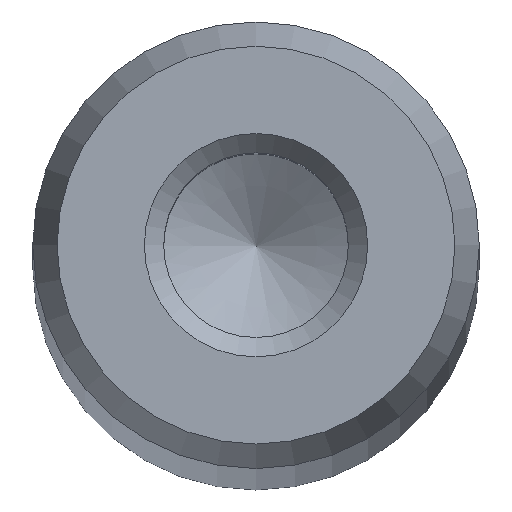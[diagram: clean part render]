
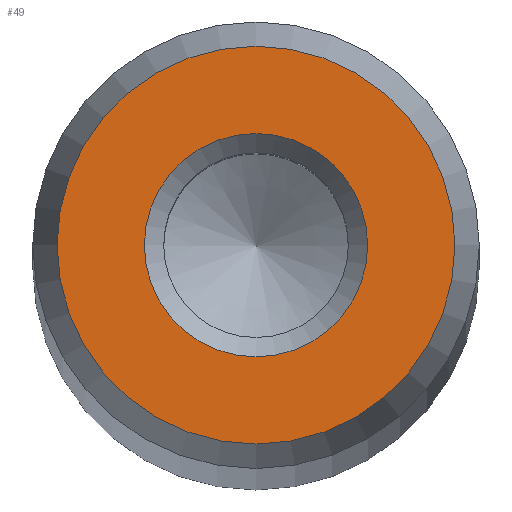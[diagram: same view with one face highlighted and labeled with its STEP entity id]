
A CAD part, top view. The second image highlights one B-rep face of the part: STEP entity #49.
In plain terms, the highlighted planar face has unit normal (0, 0, 1).
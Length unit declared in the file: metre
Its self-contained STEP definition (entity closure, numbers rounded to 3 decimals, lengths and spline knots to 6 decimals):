
#49 = ADVANCED_FACE( '', ( #104, #105 ), #106, .T. );
#104 = FACE_OUTER_BOUND( '', #163, .T. );
#105 = FACE_BOUND( '', #164, .T. );
#106 = PLANE( '', #165 );
#163 = EDGE_LOOP( '', ( #228 ) );
#164 = EDGE_LOOP( '', ( #229 ) );
#165 = AXIS2_PLACEMENT_3D( '', #230, #231, #232 );
#228 = ORIENTED_EDGE( '', *, *, #283, .T. );
#229 = ORIENTED_EDGE( '', *, *, #286, .T. );
#230 = CARTESIAN_POINT( '', ( 0., 0., 0.277 ) );
#231 = DIRECTION( '', ( 0., 0., 1. ) );
#232 = DIRECTION( '', ( 1., 0., 0. ) );
#283 = EDGE_CURVE( '', #319, #319, #320, .T. );
#286 = EDGE_CURVE( '', #323, #323, #324, .T. );
#319 = VERTEX_POINT( '', #356 );
#320 = CIRCLE( '', #357, 0.004454 );
#323 = VERTEX_POINT( '', #360 );
#324 = CIRCLE( '', #361, 0.0025 );
#356 = CARTESIAN_POINT( '', ( 0.004454, 0., 0.277 ) );
#357 = AXIS2_PLACEMENT_3D( '', #397, #398, #399 );
#360 = CARTESIAN_POINT( '', ( 0.0025, 0., 0.277 ) );
#361 = AXIS2_PLACEMENT_3D( '', #400, #401, #402 );
#397 = CARTESIAN_POINT( '', ( 0., 0., 0.277 ) );
#398 = DIRECTION( '', ( 0., 0., 1. ) );
#399 = DIRECTION( '', ( 1., 0., 0. ) );
#400 = CARTESIAN_POINT( '', ( 0., 0., 0.277 ) );
#401 = DIRECTION( '', ( 0., 0., -1. ) );
#402 = DIRECTION( '', ( 1., 0., 0. ) );
